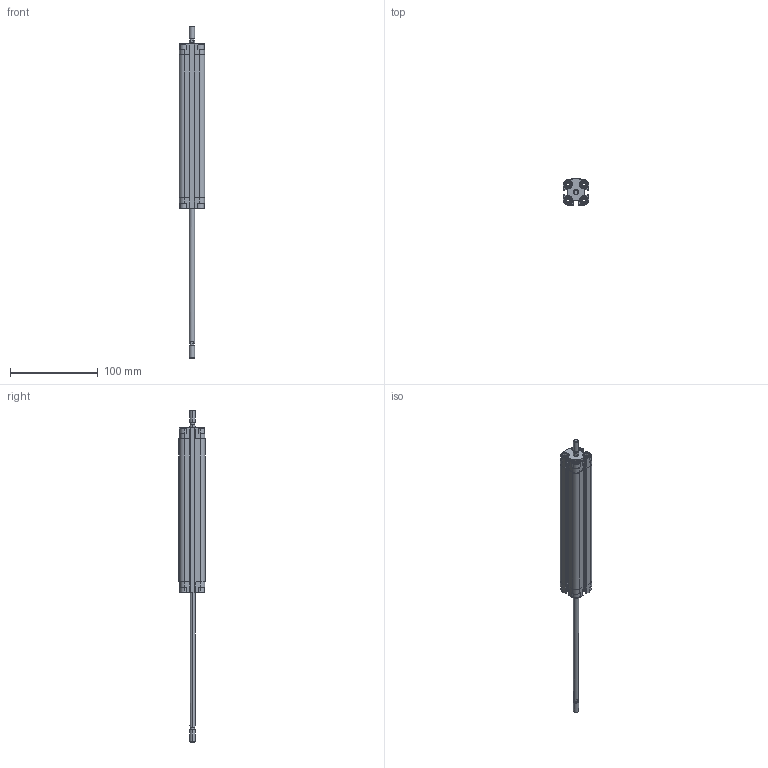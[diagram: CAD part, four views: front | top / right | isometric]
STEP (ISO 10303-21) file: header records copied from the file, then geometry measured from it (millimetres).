
FILE_DESCRIPTION (( 'STEP AP203' ), '1' );
FILE_NAME ('CDVU12-150M-P.STEP', '2020-07-21T14:58:09', ( '' ), ( '' ), 'SwSTEP 2.0', 'SolidWorks 2019', '' );
FILE_SCHEMA (( 'CONFIG_CONTROL_DESIGN' ));
Length unit declared in the file: millimetre
Products named in the file (1): CDVU12-150M-P
Bounding box: 29 x 30 x 379 mm (x, y, z)
Volume: 108969.4 mm3; surface area: 57799.1 mm2
Topology: 2 solids, 2 shells, 566 faces, 1504 edges, 978 vertices
Faces by surface type: plane 338, cylinder 164, cone 48, torus 16
Entity records: 17771 total; most frequent: CARTESIAN_POINT 3621, ORIENTED_EDGE 3000, DIRECTION 2850, EDGE_CURVE 1500, VERTEX_POINT 978, AXIS2_PLACEMENT_3D 975, LINE 900, VECTOR 900
